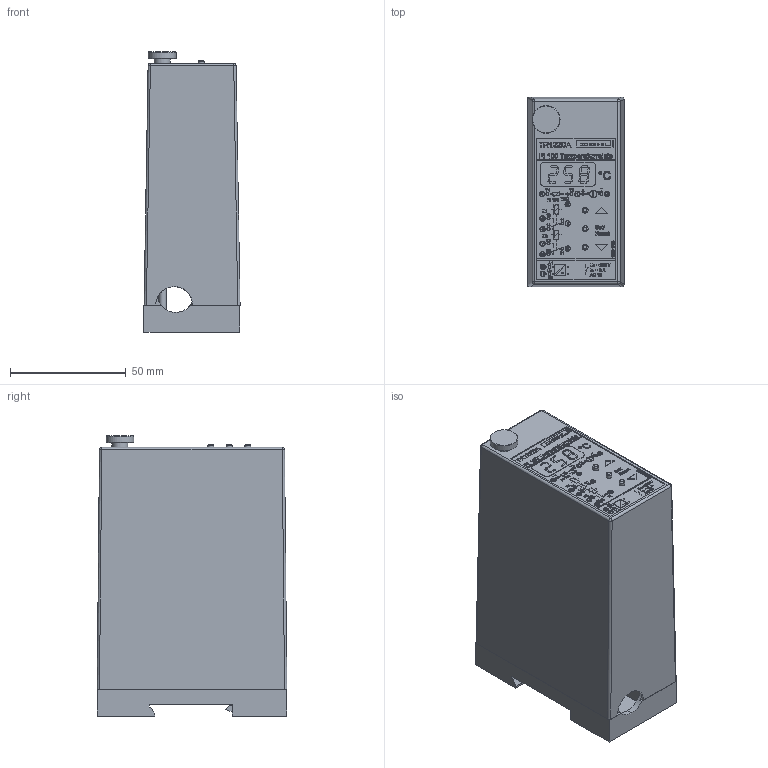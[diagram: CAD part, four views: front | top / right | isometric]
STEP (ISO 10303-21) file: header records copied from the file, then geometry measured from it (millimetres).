
FILE_DESCRIPTION (( 'STEP AP214' ), '1' );
FILE_NAME ('10660-1901-00_3D.STEP', '2014-12-05T13:47:24', ( '' ), ( '' ), 'SwSTEP 2.0', 'SolidWorks 2014', '' );
FILE_SCHEMA (( 'AUTOMOTIVE_DESIGN' ));
Length unit declared in the file: millimetre
Products named in the file (4): 1066 1233_3D; Kopie von 02920-1910-00_3D_Sockel_ohne Details^10660-1901-00_3D; Kopie von 02920-1909-00_3D_S12_ohne Muster^10660-1901-00_3D; 10660-1901-00_3D
Assembly tree (3 placements, depth 2):
  10660-1901-00_3D
    Kopie von 02920-1909-00_3D_S12_ohne Muster^10660-1901-00_3D
    Kopie von 02920-1910-00_3D_Sockel_ohne Details^10660-1901-00_3D
    1066 1233_3D
Bounding box: 41.55 x 82 x 121.15 mm (x, y, z)
Volume: 317045 mm3; surface area: 49020.5 mm2
Topology: 239 solids, 239 shells, 5346 faces, 14564 edges, 9704 vertices
Faces by surface type: plane 4934, bspline 376, cylinder 30, sphere 4, cone 2
Full cylindrical faces by diameter (mm): 1 x1, 3.2 x2, 5 x2, 6.5 x1, 7 x1, 8 x1, 12 x1, 16 x1
Entity records: 177916 total; most frequent: CARTESIAN_POINT 42069, ORIENTED_EDGE 29076, DIRECTION 23791, EDGE_CURVE 14538, VECTOR 13723, LINE 13723, VERTEX_POINT 9701, EDGE_LOOP 5531
